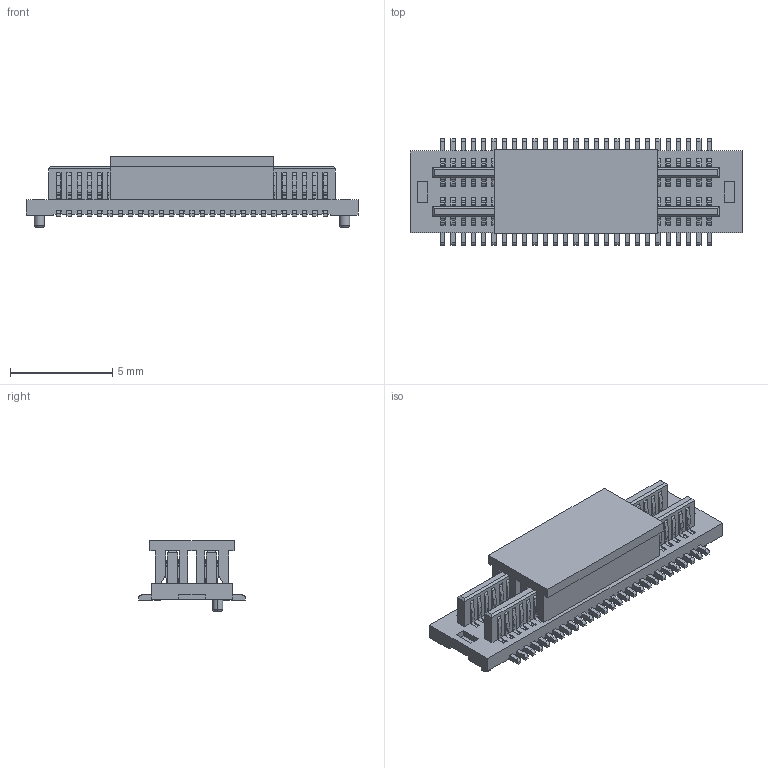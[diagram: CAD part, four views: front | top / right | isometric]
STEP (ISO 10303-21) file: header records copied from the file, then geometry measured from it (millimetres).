
FILE_DESCRIPTION(('CATIA V5 STEP Exchange'),'2;1');
FILE_NAME('F:\黄富鸿\板对板\PBB05\公座\H0.8\编带+盖\HC-PBB05-2-54-M-H0.8-G1-R-P-04（BTB0.5 双槽 公座 立贴 带柱 编带+盖）-HCTL.stp','2025-12-16T06:42:43+00:00',('none'),('none'),'CATIA Version 5 Release 20 GA (IN-10)','CATIA V5 STEP AP203','none');
FILE_SCHEMA(('CONFIG_CONTROL_DESIGN'));
Products named in the file (1): Part2
Bounding box: 16.2 x 5.2 x 3.45 mm (x, y, z)
Volume: 107.2 mm3; surface area: 870.3 mm2
Topology: 56 solids, 56 shells, 3104 faces, 9486 edges, 6284 vertices
Faces by surface type: plane 2016, cylinder 1084, torus 4
Entity records: 90995 total; most frequent: ORIENTED_EDGE 18972, CARTESIAN_POINT 16884, DIRECTION 10200, EDGE_CURVE 9486, VECTOR 7094, LINE 7094, VERTEX_POINT 6284, EDGE_LOOP 3110
